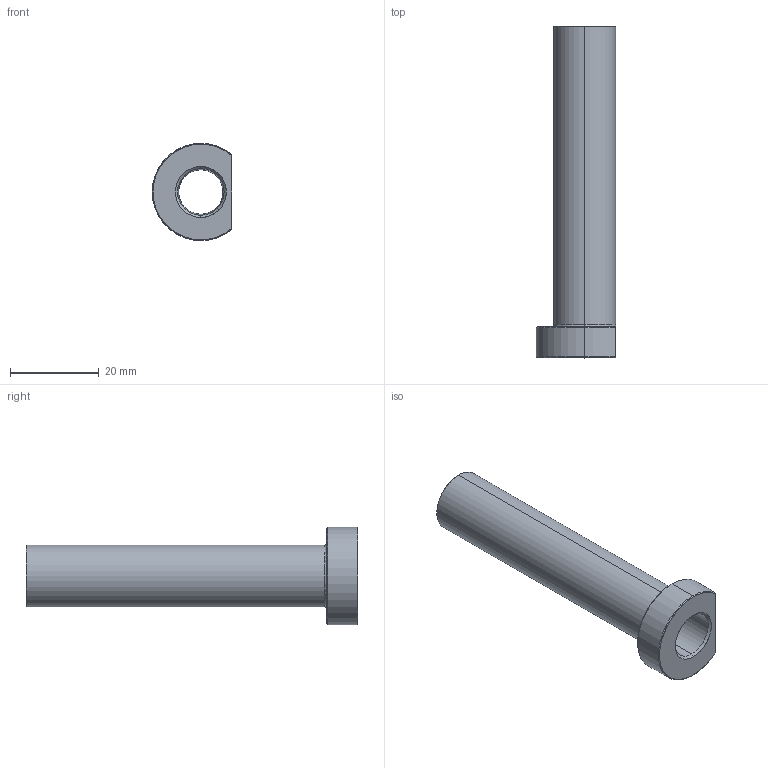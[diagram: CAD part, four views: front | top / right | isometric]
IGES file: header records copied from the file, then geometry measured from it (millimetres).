
Start section: SolidWorks IGES file using analytic representation for surfaces
Global section: file name: C:\Users\365admin\AppData\Local\Temp\InFlowConvert3DWorking\ESD10L75-K.igs; native system: SolidWorks 2019; preprocessor: SolidWorks 2019; author: 365admin; date: 220205.112344; units: millimetre
Bounding box: 18 x 75 x 22 mm (x, y, z)
Surface area: 6322.6 mm2 (no closed solid volume)
Topology: 0 solids, 0 shells, 26 faces, 293 edges, 293 vertices
Faces by surface type: revolution 19, bspline 7
